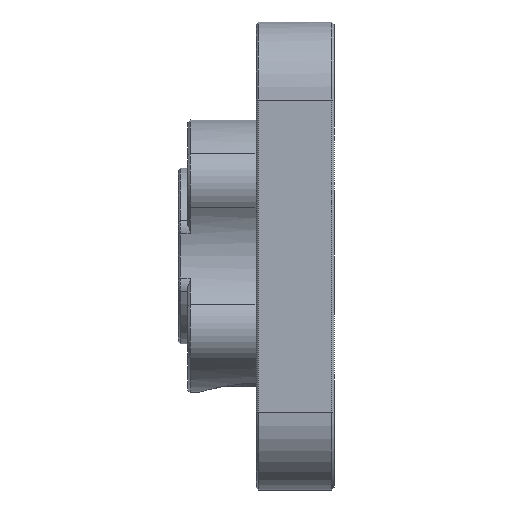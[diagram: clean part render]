
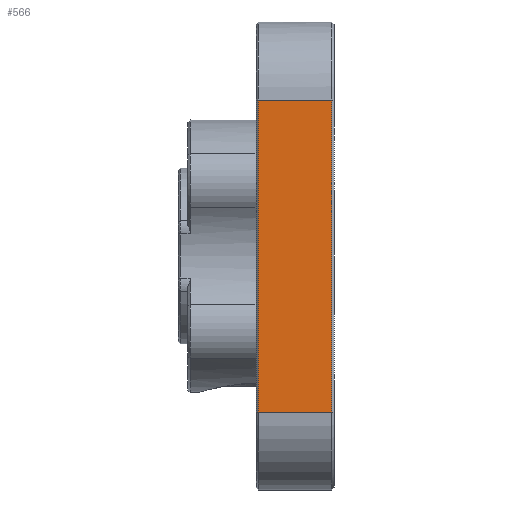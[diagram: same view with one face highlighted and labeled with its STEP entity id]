
A CAD part, left-side view. The second image highlights one B-rep face of the part: STEP entity #566.
In plain terms, the highlighted planar face has unit normal (-1, 0, 0).
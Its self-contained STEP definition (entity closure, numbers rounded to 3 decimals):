
#42 = CARTESIAN_POINT ( 'NONE',  ( -12., 0.125, -8. ) ) ;
#244 = VERTEX_POINT ( 'NONE', #18517 ) ;
#566 = ADVANCED_FACE ( 'NONE', ( #4071 ), #12495, .T. ) ;
#952 = CARTESIAN_POINT ( 'NONE',  ( -12., 0.125, 8. ) ) ;
#2989 = ORIENTED_EDGE ( 'NONE', *, *, #10292, .T. ) ;
#3249 = DIRECTION ( 'NONE',  ( 0., 0., 1. ) ) ;
#4071 = FACE_OUTER_BOUND ( 'NONE', #9883, .T. ) ;
#5329 = LINE ( 'NONE', #20986, #10403 ) ;
#5611 = DIRECTION ( 'NONE',  ( 0., 0., 1. ) ) ;
#5958 = VERTEX_POINT ( 'NONE', #42 ) ;
#6285 = EDGE_CURVE ( 'NONE', #244, #24376, #5329, .T. ) ;
#7673 = CARTESIAN_POINT ( 'NONE',  ( -12., 4., 8. ) ) ;
#8059 = LINE ( 'NONE', #7673, #18977 ) ;
#8080 = ORIENTED_EDGE ( 'NONE', *, *, #14538, .T. ) ;
#9883 = EDGE_LOOP ( 'NONE', ( #18842, #17114, #2989, #8080 ) ) ;
#9922 = VECTOR ( 'NONE', #25744, 1000. ) ;
#9969 = CARTESIAN_POINT ( 'NONE',  ( -12., 4., -8. ) ) ;
#10292 = EDGE_CURVE ( 'NONE', #24376, #5958, #28133, .T. ) ;
#10403 = VECTOR ( 'NONE', #18334, 1000. ) ;
#12152 = DIRECTION ( 'NONE',  ( 0., -1., 0. ) ) ;
#12383 = EDGE_CURVE ( 'NONE', #244, #26543, #8059, .T. ) ;
#12495 = PLANE ( 'NONE',  #25715 ) ;
#14538 = EDGE_CURVE ( 'NONE', #5958, #26543, #24280, .T. ) ;
#15035 = CARTESIAN_POINT ( 'NONE',  ( -12., 3.875, -8. ) ) ;
#17114 = ORIENTED_EDGE ( 'NONE', *, *, #6285, .T. ) ;
#18334 = DIRECTION ( 'NONE',  ( 0., 0., -1. ) ) ;
#18517 = CARTESIAN_POINT ( 'NONE',  ( -12., 3.875, 8. ) ) ;
#18842 = ORIENTED_EDGE ( 'NONE', *, *, #12383, .F. ) ;
#18977 = VECTOR ( 'NONE', #12152, 1000. ) ;
#19802 = DIRECTION ( 'NONE',  ( -1., 0., 0. ) ) ;
#20986 = CARTESIAN_POINT ( 'NONE',  ( -12., 3.875, 0. ) ) ;
#21771 = CARTESIAN_POINT ( 'NONE',  ( -12., 4., 0. ) ) ;
#22463 = VECTOR ( 'NONE', #3249, 1000. ) ;
#23101 = CARTESIAN_POINT ( 'NONE',  ( -12., 0.125, 8. ) ) ;
#24280 = LINE ( 'NONE', #952, #22463 ) ;
#24376 = VERTEX_POINT ( 'NONE', #15035 ) ;
#25715 = AXIS2_PLACEMENT_3D ( 'NONE', #21771, #19802, #5611 ) ;
#25744 = DIRECTION ( 'NONE',  ( 0., -1., 0. ) ) ;
#26543 = VERTEX_POINT ( 'NONE', #23101 ) ;
#28133 = LINE ( 'NONE', #9969, #9922 ) ;
